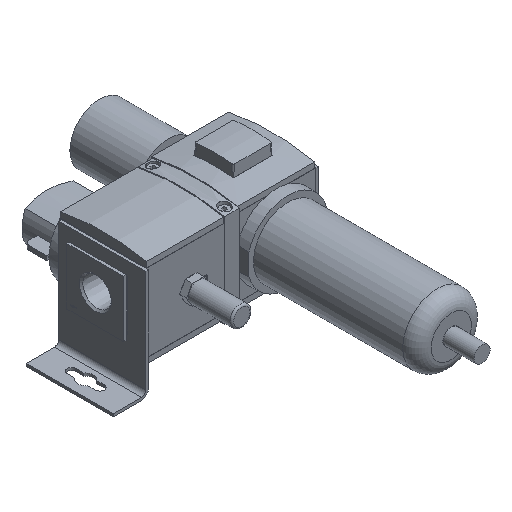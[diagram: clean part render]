
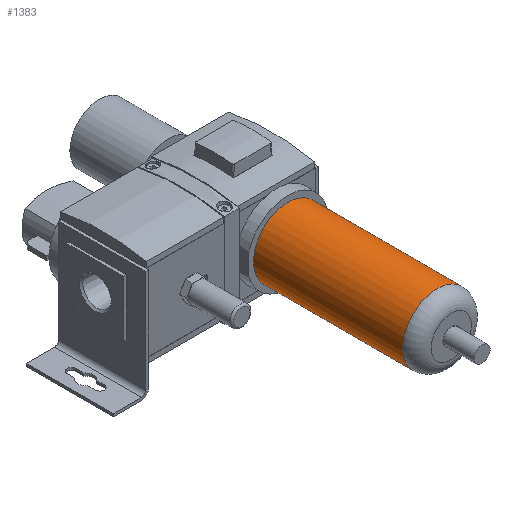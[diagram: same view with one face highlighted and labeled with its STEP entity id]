
A CAD part, isometric view. The second image highlights one B-rep face of the part: STEP entity #1383.
In plain terms, the highlighted cylindrical face has radius 24.25 mm (diameter 48.5 mm), a full revolution.
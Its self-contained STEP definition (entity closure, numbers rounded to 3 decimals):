
#1383 = ADVANCED_FACE( '', ( #2895, #2896 ), #2897, .T. );
#2895 = FACE_OUTER_BOUND( '', #4688, .T. );
#2896 = FACE_OUTER_BOUND( '', #4689, .T. );
#2897 = CYLINDRICAL_SURFACE( '', #4690, 24.25 );
#4688 = EDGE_LOOP( '', ( #7879 ) );
#4689 = EDGE_LOOP( '', ( #7880 ) );
#4690 = AXIS2_PLACEMENT_3D( '', #7881, #7882, #7883 );
#7879 = ORIENTED_EDGE( '', *, *, #11593, .F. );
#7880 = ORIENTED_EDGE( '', *, *, #11594, .T. );
#7881 = CARTESIAN_POINT( '', ( 0., -115.5, 0. ) );
#7882 = DIRECTION( '', ( 0., 1., 0. ) );
#7883 = DIRECTION( '', ( 0., 0., -1. ) );
#11593 = EDGE_CURVE( '', #14161, #14161, #14162, .T. );
#11594 = EDGE_CURVE( '', #14163, #14163, #14164, .T. );
#14161 = VERTEX_POINT( '', #17990 );
#14162 = CIRCLE( '', #17991, 24.25 );
#14163 = VERTEX_POINT( '', #17992 );
#14164 = CIRCLE( '', #17993, 24.25 );
#17990 = CARTESIAN_POINT( '', ( 0., -105.5, -24.25 ) );
#17991 = AXIS2_PLACEMENT_3D( '', #20238, #20239, #20240 );
#17992 = CARTESIAN_POINT( '', ( 0., 0., -24.25 ) );
#17993 = AXIS2_PLACEMENT_3D( '', #20241, #20242, #20243 );
#20238 = CARTESIAN_POINT( '', ( 0., -105.5, 0. ) );
#20239 = DIRECTION( '', ( 0., -1., 0. ) );
#20240 = DIRECTION( '', ( 0., 0., -1. ) );
#20241 = CARTESIAN_POINT( '', ( 0., 0., 0. ) );
#20242 = DIRECTION( '', ( 0., -1., 0. ) );
#20243 = DIRECTION( '', ( 0., 0., -1. ) );
